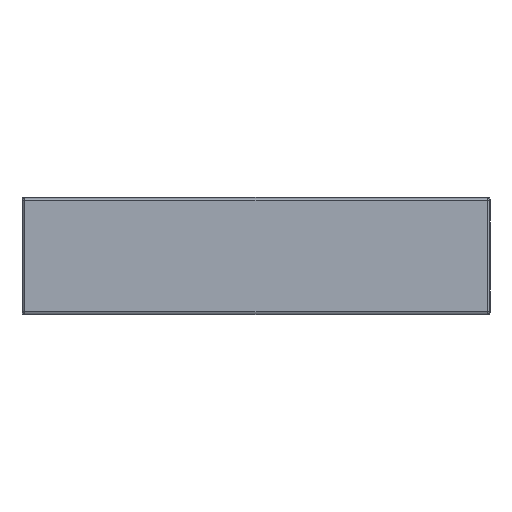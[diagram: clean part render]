
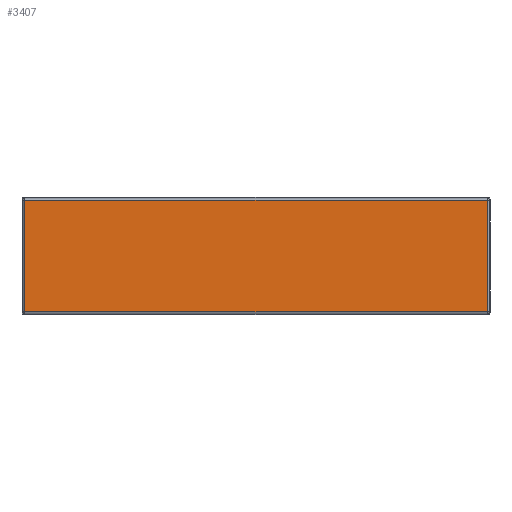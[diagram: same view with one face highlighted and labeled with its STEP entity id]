
A CAD part, left-side view. The second image highlights one B-rep face of the part: STEP entity #3407.
In plain terms, the highlighted planar face has unit normal (-1, 0, 0).
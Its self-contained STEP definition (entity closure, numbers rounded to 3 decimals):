
#61=DIRECTION('',(0.,-1.,0.));
#62=VECTOR('',#61,49.404);
#63=CARTESIAN_POINT('',(0.,24.702,-5.952));
#64=LINE('',#63,#62);
#69=DIRECTION('',(0.,0.,-1.));
#70=VECTOR('',#69,11.904);
#71=CARTESIAN_POINT('',(0.,24.702,5.952));
#72=LINE('',#71,#70);
#76=DIRECTION('',(0.,1.,0.));
#77=VECTOR('',#76,49.404);
#78=CARTESIAN_POINT('',(0.,-24.702,5.952));
#79=LINE('',#78,#77);
#83=DIRECTION('',(0.,0.,1.));
#84=VECTOR('',#83,11.904);
#85=CARTESIAN_POINT('',(0.,-24.702,-5.952));
#86=LINE('',#85,#84);
#2982=CARTESIAN_POINT('',(0.,24.702,-5.952));
#2983=CARTESIAN_POINT('',(0.,-24.702,-5.952));
#2984=VERTEX_POINT('',#2982);
#2985=VERTEX_POINT('',#2983);
#2986=CARTESIAN_POINT('',(0.,-24.702,5.952));
#2987=VERTEX_POINT('',#2986);
#2992=CARTESIAN_POINT('',(0.,24.702,5.952));
#2993=VERTEX_POINT('',#2992);
#3392=CARTESIAN_POINT('',(0.,0.,0.));
#3393=DIRECTION('',(1.,0.,0.));
#3394=DIRECTION('',(0.,0.,-1.));
#3395=AXIS2_PLACEMENT_3D('',#3392,#3393,#3394);
#3396=PLANE('',#3395);
#3398=ORIENTED_EDGE('',*,*,#3397,.F.);
#3400=ORIENTED_EDGE('',*,*,#3399,.F.);
#3402=ORIENTED_EDGE('',*,*,#3401,.F.);
#3404=ORIENTED_EDGE('',*,*,#3403,.F.);
#3405=EDGE_LOOP('',(#3398,#3400,#3402,#3404));
#3406=FACE_OUTER_BOUND('',#3405,.F.);
#3407=ADVANCED_FACE('',(#3406),#3396,.F.);
#3397=EDGE_CURVE('',#2984,#2985,#64,.T.);
#3399=EDGE_CURVE('',#2993,#2984,#72,.T.);
#3401=EDGE_CURVE('',#2987,#2993,#79,.T.);
#3403=EDGE_CURVE('',#2985,#2987,#86,.T.);
